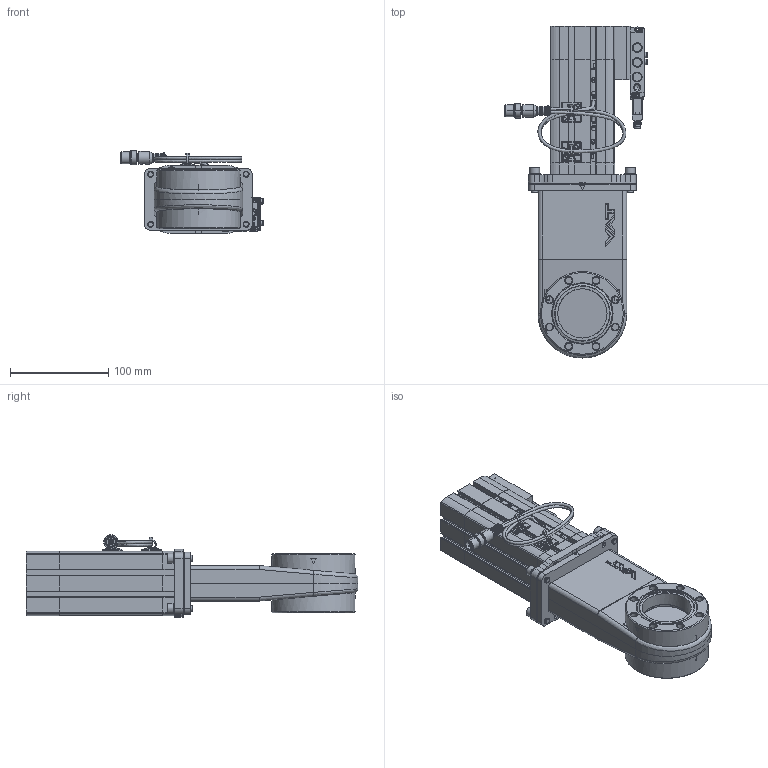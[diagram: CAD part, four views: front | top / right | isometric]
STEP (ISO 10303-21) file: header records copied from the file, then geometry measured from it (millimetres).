
FILE_DESCRIPTION(/* description */ (''),/* implementation_level */ '2;1');
FILE_NAME(/* name */ '1067001179_203.stp',/* time_stamp */ '2022-03-04T10:24:04+01:00',/* author */ (''),/* organization */ (''),/* preprocessor_version */ 'ST-DEVELOPER v18.1',/* originating_system */ 'SIEMENS PLM Software NX 1973',/* authorisation */ '');
FILE_SCHEMA (('AP203_CONFIGURATION_CONTROLLED_3D_DESIGN_OF_MECHANICAL_PARTS_AND_ASSEMBLIES_MIM_LF { 1 0 10303 403 2 1 2}'));
Length unit declared in the file: millimetre
Products named in the file (25): 350432.7_34999ID; 350432.7_34966ID; 350540.2_35007ID; 408099; 990068; 487660; 411636_35059ID; 1041281; 343001.1; 1033982; 1133560; 938048; 716165; 716165_34985ID; 1085547; 984070; 218189; n-6134-408; 351709.1; 350482.2; 1081830_NX-ARRAGMNTDN050/63, Standard v3 ; 1034004_NX-ARRAGMNTCLOSED; 351438.6; 716133; 1096156
Assembly tree (35 placements, depth 4):
  1096156
    350482.2
    351709.1
    n-6134-408  x4
    218189  x4
    716133
      351438.6
        350540.2_35007ID
        350432.7_34966ID
        350432.7_34999ID
      716165_34985ID
      716165
    1034004_NX-ARRAGMNTCLOSED
      938048
      1133560
      1033982
      343001.1  x2
      1041281
    1081830_NX-ARRAGMNTDN050/63, Standard v3 
      411636_35059ID
      487660  x2
      990068
      408099  x2
    984070  x2
    1085547  x2
Bounding box: 144.85 x 337.35 x 83.9 mm (x, y, z)
Volume: 983914.4 mm3; surface area: 267442.1 mm2
Topology: 48 solids, 50 shells, 5355 faces, 13565 edges, 8260 vertices
Faces by surface type: plane 2153, cylinder 1759, bspline 670, cone 318, torus 267, sphere 175, revolution 12, extrusion 1
Full cylindrical faces by diameter (mm): 1.041 x3, 1.5 x1, 2 x2, 2.46 x2, 2.5 x3, 2.9 x2, 3 x6, 3.2 x4, 3.4 x4, 3.75 x1, 3.8 x1, 3.9 x1, 4 x4, 4.5 x6, 4.96 x4, 5 x8, 5.05 x1, 5.2 x2, 5.22 x4, 5.5 x4, 5.6 x1, 5.8 x1, 6 x8, 6.2 x3, 6.4 x5, 6.5 x4, 6.54 x1, 6.6 x4, 6.8 x16, 6.9 x1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
Entity records: 175817 total; most frequent: CARTESIAN_POINT 61660, ORIENTED_EDGE 23420, DIRECTION 21901, EDGE_CURVE 11710, AXIS2_PLACEMENT_3D 8140, VERTEX_POINT 7381, VECTOR 5613, LINE 5612
